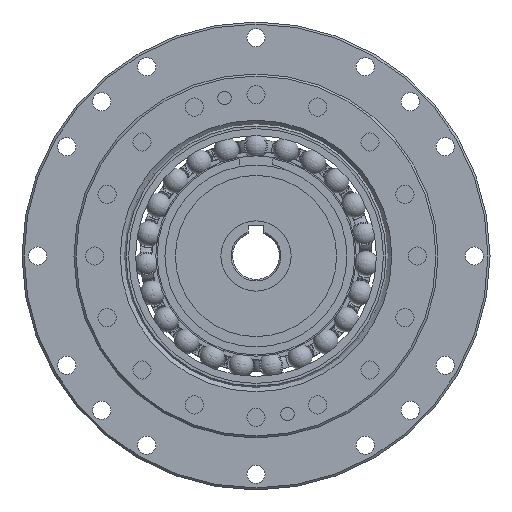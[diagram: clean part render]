
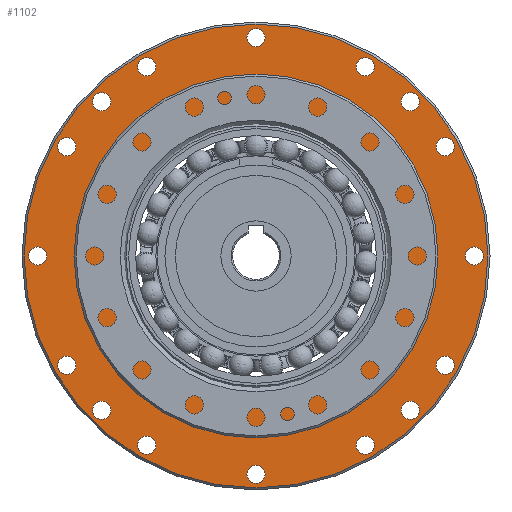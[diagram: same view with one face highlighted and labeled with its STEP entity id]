
A CAD part, left-side view. The second image highlights one B-rep face of the part: STEP entity #1102.
In plain terms, the highlighted planar face has unit normal (-1, 0, 0).
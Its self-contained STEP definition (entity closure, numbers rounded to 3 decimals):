
#1102=ADVANCED_FACE('',(#1460,#1461,#1462,#1463,#1464,#1465,#1466,#1467,
#1468,#1469,#1470,#1471,#1472,#1473,#1474,#1475,#1476,#1477),#1391,.T.);
#1391=PLANE('',#4961);
#1460=FACE_BOUND('',#1737,.T.);
#1461=FACE_BOUND('',#1738,.T.);
#1462=FACE_BOUND('',#1739,.T.);
#1463=FACE_BOUND('',#1740,.T.);
#1464=FACE_BOUND('',#1741,.T.);
#1465=FACE_BOUND('',#1742,.T.);
#1466=FACE_BOUND('',#1743,.T.);
#1467=FACE_BOUND('',#1744,.T.);
#1468=FACE_BOUND('',#1745,.T.);
#1469=FACE_BOUND('',#1746,.T.);
#1470=FACE_BOUND('',#1747,.T.);
#1471=FACE_BOUND('',#1748,.T.);
#1472=FACE_BOUND('',#1749,.T.);
#1473=FACE_BOUND('',#1750,.T.);
#1474=FACE_BOUND('',#1751,.T.);
#1475=FACE_BOUND('',#1752,.T.);
#1476=FACE_BOUND('',#1753,.T.);
#1477=FACE_BOUND('',#1754,.T.);
#1737=EDGE_LOOP('',(#2164));
#1738=EDGE_LOOP('',(#2165));
#1739=EDGE_LOOP('',(#2166));
#1740=EDGE_LOOP('',(#2167));
#1741=EDGE_LOOP('',(#2168));
#1742=EDGE_LOOP('',(#2169));
#1743=EDGE_LOOP('',(#2170));
#1744=EDGE_LOOP('',(#2171));
#1745=EDGE_LOOP('',(#2172));
#1746=EDGE_LOOP('',(#2173));
#1747=EDGE_LOOP('',(#2174));
#1748=EDGE_LOOP('',(#2175));
#1749=EDGE_LOOP('',(#2176));
#1750=EDGE_LOOP('',(#2177));
#1751=EDGE_LOOP('',(#2178));
#1752=EDGE_LOOP('',(#2179));
#1753=EDGE_LOOP('',(#2180));
#1754=EDGE_LOOP('',(#2181));
#2164=ORIENTED_EDGE('',*,*,#3930,.T.);
#2165=ORIENTED_EDGE('',*,*,#3931,.T.);
#2166=ORIENTED_EDGE('',*,*,#3932,.F.);
#2167=ORIENTED_EDGE('',*,*,#3933,.F.);
#2168=ORIENTED_EDGE('',*,*,#3934,.F.);
#2169=ORIENTED_EDGE('',*,*,#3935,.F.);
#2170=ORIENTED_EDGE('',*,*,#3936,.F.);
#2171=ORIENTED_EDGE('',*,*,#3937,.F.);
#2172=ORIENTED_EDGE('',*,*,#3938,.F.);
#2173=ORIENTED_EDGE('',*,*,#3939,.F.);
#2174=ORIENTED_EDGE('',*,*,#3940,.F.);
#2175=ORIENTED_EDGE('',*,*,#3941,.F.);
#2176=ORIENTED_EDGE('',*,*,#3942,.F.);
#2177=ORIENTED_EDGE('',*,*,#3943,.F.);
#2178=ORIENTED_EDGE('',*,*,#3944,.F.);
#2179=ORIENTED_EDGE('',*,*,#3945,.F.);
#2180=ORIENTED_EDGE('',*,*,#3946,.F.);
#2181=ORIENTED_EDGE('',*,*,#3947,.F.);
#3440=VERTEX_POINT('',#6761);
#3441=VERTEX_POINT('',#6763);
#3442=VERTEX_POINT('',#6765);
#3443=VERTEX_POINT('',#6767);
#3444=VERTEX_POINT('',#6769);
#3445=VERTEX_POINT('',#6771);
#3446=VERTEX_POINT('',#6773);
#3447=VERTEX_POINT('',#6775);
#3448=VERTEX_POINT('',#6777);
#3449=VERTEX_POINT('',#6779);
#3450=VERTEX_POINT('',#6781);
#3451=VERTEX_POINT('',#6783);
#3452=VERTEX_POINT('',#6785);
#3453=VERTEX_POINT('',#6787);
#3454=VERTEX_POINT('',#6789);
#3455=VERTEX_POINT('',#6791);
#3456=VERTEX_POINT('',#6793);
#3457=VERTEX_POINT('',#6795);
#3930=EDGE_CURVE('',#3440,#3440,#4655,.T.);
#3931=EDGE_CURVE('',#3441,#3441,#4656,.T.);
#3932=EDGE_CURVE('',#3442,#3442,#4657,.T.);
#3933=EDGE_CURVE('',#3443,#3443,#4658,.T.);
#3934=EDGE_CURVE('',#3444,#3444,#4659,.T.);
#3935=EDGE_CURVE('',#3445,#3445,#4660,.T.);
#3936=EDGE_CURVE('',#3446,#3446,#4661,.T.);
#3937=EDGE_CURVE('',#3447,#3447,#4662,.T.);
#3938=EDGE_CURVE('',#3448,#3448,#4663,.T.);
#3939=EDGE_CURVE('',#3449,#3449,#4664,.T.);
#3940=EDGE_CURVE('',#3450,#3450,#4665,.T.);
#3941=EDGE_CURVE('',#3451,#3451,#4666,.T.);
#3942=EDGE_CURVE('',#3452,#3452,#4667,.T.);
#3943=EDGE_CURVE('',#3453,#3453,#4668,.T.);
#3944=EDGE_CURVE('',#3454,#3454,#4669,.T.);
#3945=EDGE_CURVE('',#3455,#3455,#4670,.T.);
#3946=EDGE_CURVE('',#3456,#3456,#4671,.T.);
#3947=EDGE_CURVE('',#3457,#3457,#4672,.T.);
#4655=CIRCLE('',#4943,26.);
#4656=CIRCLE('',#4944,44.6);
#4657=CIRCLE('',#4945,1.75);
#4658=CIRCLE('',#4946,1.75);
#4659=CIRCLE('',#4947,1.75);
#4660=CIRCLE('',#4948,1.75);
#4661=CIRCLE('',#4949,1.75);
#4662=CIRCLE('',#4950,1.75);
#4663=CIRCLE('',#4951,1.75);
#4664=CIRCLE('',#4952,1.75);
#4665=CIRCLE('',#4953,1.75);
#4666=CIRCLE('',#4954,1.75);
#4667=CIRCLE('',#4955,1.75);
#4668=CIRCLE('',#4956,1.75);
#4669=CIRCLE('',#4957,1.75);
#4670=CIRCLE('',#4958,1.75);
#4671=CIRCLE('',#4959,1.75);
#4672=CIRCLE('',#4960,1.75);
#4943=AXIS2_PLACEMENT_3D('',#6760,#5522,#5523);
#4944=AXIS2_PLACEMENT_3D('',#6762,#5524,#5525);
#4945=AXIS2_PLACEMENT_3D('',#6764,#5526,#5527);
#4946=AXIS2_PLACEMENT_3D('',#6766,#5528,#5529);
#4947=AXIS2_PLACEMENT_3D('',#6768,#5530,#5531);
#4948=AXIS2_PLACEMENT_3D('',#6770,#5532,#5533);
#4949=AXIS2_PLACEMENT_3D('',#6772,#5534,#5535);
#4950=AXIS2_PLACEMENT_3D('',#6774,#5536,#5537);
#4951=AXIS2_PLACEMENT_3D('',#6776,#5538,#5539);
#4952=AXIS2_PLACEMENT_3D('',#6778,#5540,#5541);
#4953=AXIS2_PLACEMENT_3D('',#6780,#5542,#5543);
#4954=AXIS2_PLACEMENT_3D('',#6782,#5544,#5545);
#4955=AXIS2_PLACEMENT_3D('',#6784,#5546,#5547);
#4956=AXIS2_PLACEMENT_3D('',#6786,#5548,#5549);
#4957=AXIS2_PLACEMENT_3D('',#6788,#5550,#5551);
#4958=AXIS2_PLACEMENT_3D('',#6790,#5552,#5553);
#4959=AXIS2_PLACEMENT_3D('',#6792,#5554,#5555);
#4960=AXIS2_PLACEMENT_3D('',#6794,#5556,#5557);
#4961=AXIS2_PLACEMENT_3D('',#6796,#5558,#5559);
#5522=DIRECTION('',(1.,0.,0.));
#5523=DIRECTION('',(0.,0.,1.));
#5524=DIRECTION('',(-1.,0.,0.));
#5525=DIRECTION('',(0.,0.,1.));
#5526=DIRECTION('',(-1.,0.,0.));
#5527=DIRECTION('',(0.,0.,1.));
#5528=DIRECTION('',(-1.,0.,0.));
#5529=DIRECTION('',(0.,0.,1.));
#5530=DIRECTION('',(-1.,0.,0.));
#5531=DIRECTION('',(0.,0.,1.));
#5532=DIRECTION('',(-1.,0.,0.));
#5533=DIRECTION('',(0.,0.,1.));
#5534=DIRECTION('',(-1.,0.,0.));
#5535=DIRECTION('',(0.,0.,1.));
#5536=DIRECTION('',(-1.,0.,0.));
#5537=DIRECTION('',(0.,0.,1.));
#5538=DIRECTION('',(-1.,0.,0.));
#5539=DIRECTION('',(0.,0.,1.));
#5540=DIRECTION('',(-1.,0.,0.));
#5541=DIRECTION('',(0.,0.,1.));
#5542=DIRECTION('',(-1.,0.,0.));
#5543=DIRECTION('',(0.,0.,1.));
#5544=DIRECTION('',(-1.,0.,0.));
#5545=DIRECTION('',(0.,0.,1.));
#5546=DIRECTION('',(-1.,0.,0.));
#5547=DIRECTION('',(0.,0.,1.));
#5548=DIRECTION('',(-1.,0.,0.));
#5549=DIRECTION('',(0.,0.,1.));
#5550=DIRECTION('',(-1.,0.,0.));
#5551=DIRECTION('',(0.,0.,1.));
#5552=DIRECTION('',(-1.,0.,0.));
#5553=DIRECTION('',(0.,0.,1.));
#5554=DIRECTION('',(-1.,0.,0.));
#5555=DIRECTION('',(0.,0.,1.));
#5556=DIRECTION('',(-1.,0.,0.));
#5557=DIRECTION('',(0.,0.,1.));
#5558=DIRECTION('',(-1.,0.,0.));
#5559=DIRECTION('',(0.,0.,1.));
#6760=CARTESIAN_POINT('',(26.4,0.,0.));
#6761=CARTESIAN_POINT('',(26.4,0.,26.));
#6762=CARTESIAN_POINT('',(26.4,0.,0.));
#6763=CARTESIAN_POINT('',(26.4,0.,44.6));
#6764=CARTESIAN_POINT('',(26.4,-29.698,-29.698));
#6765=CARTESIAN_POINT('',(26.4,-29.698,-27.948));
#6766=CARTESIAN_POINT('',(26.4,29.698,-29.698));
#6767=CARTESIAN_POINT('',(26.4,29.698,-27.948));
#6768=CARTESIAN_POINT('',(26.4,29.698,29.698));
#6769=CARTESIAN_POINT('',(26.4,29.698,31.448));
#6770=CARTESIAN_POINT('',(26.4,-29.698,29.698));
#6771=CARTESIAN_POINT('',(26.4,-29.698,31.448));
#6772=CARTESIAN_POINT('',(26.4,-21.,36.373));
#6773=CARTESIAN_POINT('',(26.4,-21.,38.123));
#6774=CARTESIAN_POINT('',(26.4,-36.373,21.));
#6775=CARTESIAN_POINT('',(26.4,-36.373,22.75));
#6776=CARTESIAN_POINT('',(26.4,-42.,0.));
#6777=CARTESIAN_POINT('',(26.4,-42.,1.75));
#6778=CARTESIAN_POINT('',(26.4,-36.373,-21.));
#6779=CARTESIAN_POINT('',(26.4,-36.373,-19.25));
#6780=CARTESIAN_POINT('',(26.4,-21.,-36.373));
#6781=CARTESIAN_POINT('',(26.4,-21.,-34.623));
#6782=CARTESIAN_POINT('',(26.4,0.,-42.));
#6783=CARTESIAN_POINT('',(26.4,0.,-40.25));
#6784=CARTESIAN_POINT('',(26.4,21.,-36.373));
#6785=CARTESIAN_POINT('',(26.4,21.,-34.623));
#6786=CARTESIAN_POINT('',(26.4,36.373,-21.));
#6787=CARTESIAN_POINT('',(26.4,36.373,-19.25));
#6788=CARTESIAN_POINT('',(26.4,42.,0.));
#6789=CARTESIAN_POINT('',(26.4,42.,1.75));
#6790=CARTESIAN_POINT('',(26.4,36.373,21.));
#6791=CARTESIAN_POINT('',(26.4,36.373,22.75));
#6792=CARTESIAN_POINT('',(26.4,21.,36.373));
#6793=CARTESIAN_POINT('',(26.4,21.,38.123));
#6794=CARTESIAN_POINT('',(26.4,0.,42.));
#6795=CARTESIAN_POINT('',(26.4,0.,43.75));
#6796=CARTESIAN_POINT('',(26.4,0.,47.723));
